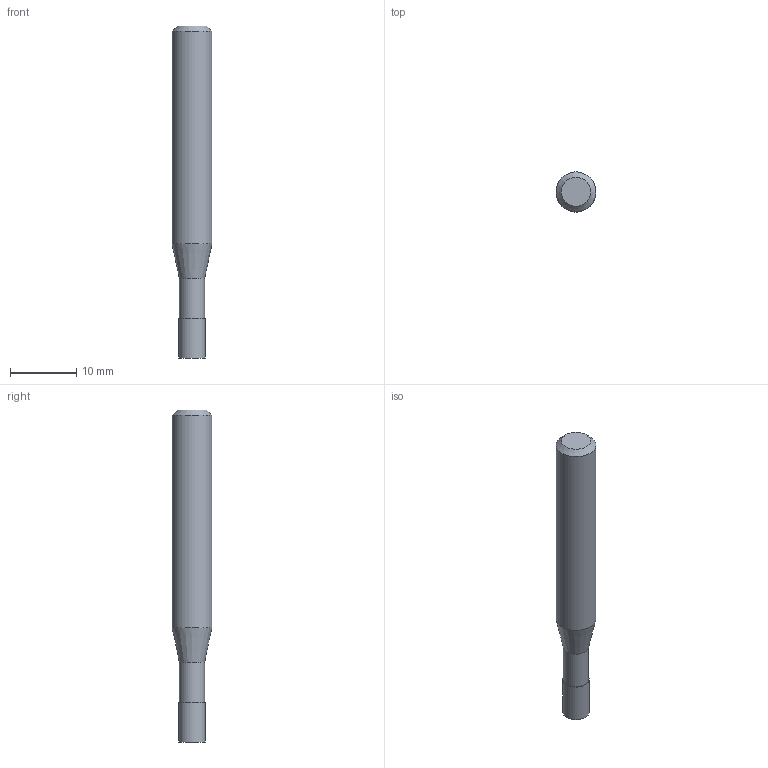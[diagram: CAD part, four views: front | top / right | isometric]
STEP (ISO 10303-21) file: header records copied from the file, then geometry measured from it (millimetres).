
FILE_DESCRIPTION((''),'2;1');
FILE_NAME('C:\Users\nsx150\AppData\Local\Temp\Mastercam 2021\3SYKECWX22\TEMP.step','2021-04-22T09:39:42',(''),(''),'STEP Write','Mastercam 2021 ... CNC Software, Inc.','');
FILE_SCHEMA(('AUTOMOTIVE_DESIGN'));
Length unit declared in the file: millimetre
Products named in the file (1): None
Bounding box: 6 x 6 x 50 mm (x, y, z)
Volume: 1165.3 mm3; surface area: 902.3 mm2
Topology: 2 solids, 2 shells, 9 faces, 12 edges, 7 vertices
Faces by surface type: plane 4, cylinder 3, cone 2
Full cylindrical faces by diameter (mm): 3.8 x1, 4 x1, 6 x1
Entity records: 211 total; most frequent: DIRECTION 36, CARTESIAN_POINT 25, AXIS2_PLACEMENT_3D 18, ORIENTED_EDGE 14, EDGE_LOOP 14, STYLED_ITEM 12, ADVANCED_FACE 9, FACE_BOUND 8
